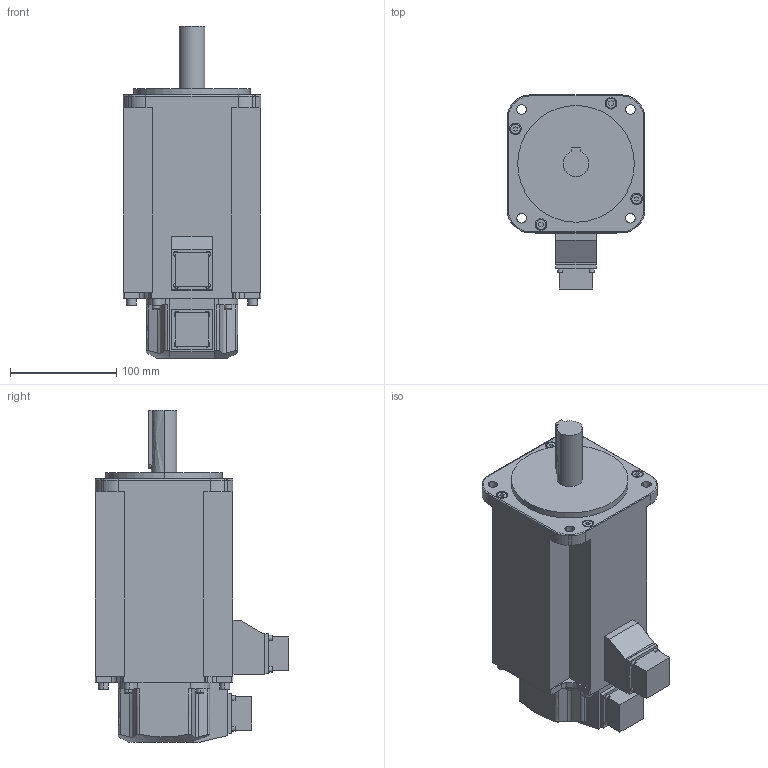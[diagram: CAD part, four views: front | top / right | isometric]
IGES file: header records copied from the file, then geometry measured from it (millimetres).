
Start section:  PTC IGES file: rsms_40ask3.igs
Global section: file name: rsms_40ask3.igs; native system: Pro/ENGINEER by Parametric Technology Corporation; preprocessor: 2004440; author: Administrator; organization: Unknown; date: 070829.195333; units: millimetre
Bounding box: 130 x 182.7 x 313 mm (x, y, z)
Volume: 3277474.5 mm3; surface area: 172304.6 mm2
Topology: 1 solids, 1 shells, 290 faces, 744 edges, 488 vertices
Faces by surface type: bspline 164, revolution 126
